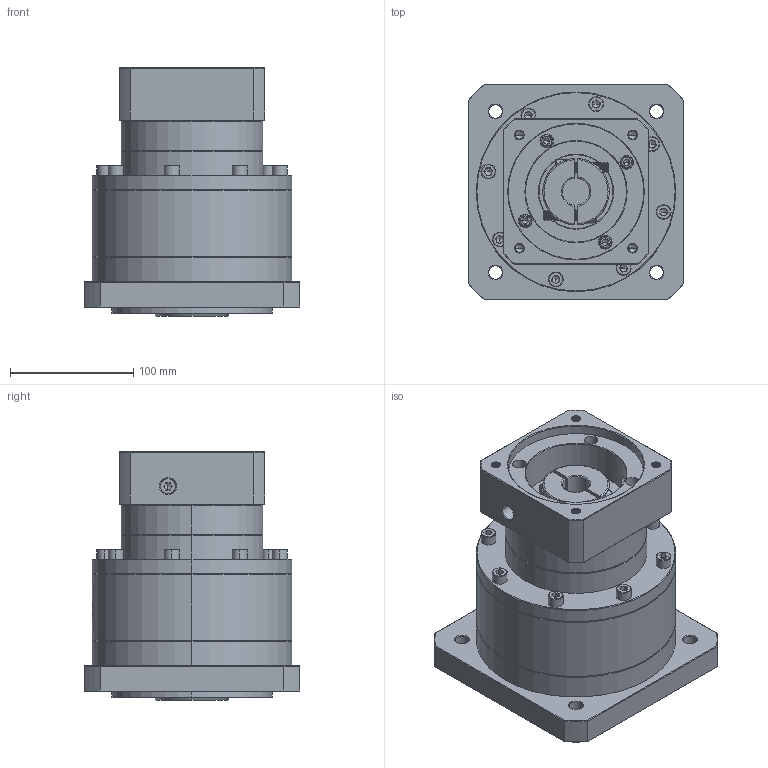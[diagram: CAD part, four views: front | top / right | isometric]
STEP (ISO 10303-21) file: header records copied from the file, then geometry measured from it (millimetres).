
FILE_DESCRIPTION (( 'STEP AP214' ), '1' );
FILE_NAME ('ZF160A-K35-L2-P2-22-110-130-M8.step', '2023-09-03T07:57:35', ( '' ), ( '' ), 'SwSTEP 2.0', 'SolidWorks 2016', '' );
FILE_SCHEMA (( 'AUTOMOTIVE_DESIGN' ));
Length unit declared in the file: millimetre
Products named in the file (1): ZF160A-K35-L2-P2-22-110-130-M8
Bounding box: 175 x 175 x 201.7 mm (x, y, z)
Volume: 3209053 mm3; surface area: 255277.6 mm2
Topology: 6 solids, 6 shells, 2383 faces, 6308 edges, 4051 vertices
Faces by surface type: plane 1112, cylinder 450, bspline 418, cone 367, torus 36
Entity records: 125827 total; most frequent: CARTESIAN_POINT 45558, ORIENTED_EDGE 12512, DIRECTION 9546, EDGE_CURVE 6256, VERTEX_POINT 4051, LINE 3330, VECTOR 3330, AXIS2_PLACEMENT_3D 3108
